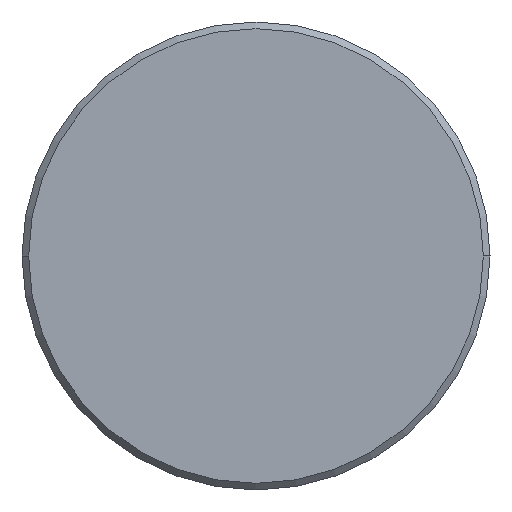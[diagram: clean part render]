
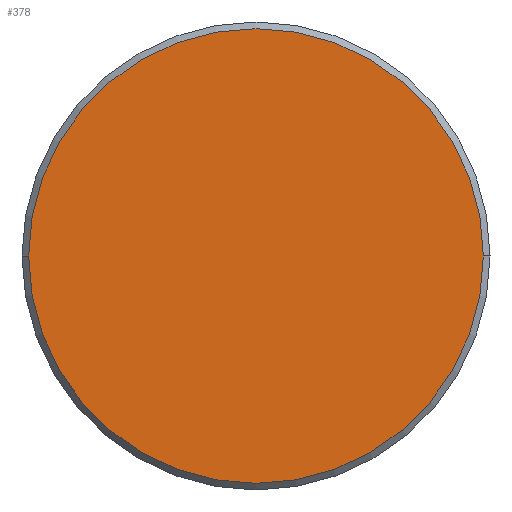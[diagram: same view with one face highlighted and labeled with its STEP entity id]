
A CAD part, left-side view. The second image highlights one B-rep face of the part: STEP entity #378.
In plain terms, the highlighted planar face has unit normal (-1, 0, 0).
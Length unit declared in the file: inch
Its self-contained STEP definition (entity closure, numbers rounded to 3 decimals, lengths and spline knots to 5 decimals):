
#25 = CARTESIAN_POINT ( 'NONE',  ( 0., 0., 0. ) ) ;
#28 = DIRECTION ( 'NONE',  ( 0., -1., 0. ) ) ;
#45 = CIRCLE ( 'NONE', #334, 0.13662 ) ;
#63 = CARTESIAN_POINT ( 'NONE',  ( 0., 0., 0. ) ) ;
#87 = DIRECTION ( 'NONE',  ( -1., 0., 0. ) ) ;
#120 = VERTEX_POINT ( 'NONE', #317 ) ;
#146 = EDGE_CURVE ( 'NONE', #120, #207, #45, .T. ) ;
#149 = DIRECTION ( 'NONE',  ( 0., -1., 0. ) ) ;
#173 = DIRECTION ( 'NONE',  ( -1., 0., 0. ) ) ;
#205 = PLANE ( 'NONE',  #301 ) ;
#206 = ORIENTED_EDGE ( 'NONE', *, *, #366, .T. ) ;
#207 = VERTEX_POINT ( 'NONE', #236 ) ;
#220 = ORIENTED_EDGE ( 'NONE', *, *, #146, .T. ) ;
#226 = DIRECTION ( 'NONE',  ( -1., 0., 0. ) ) ;
#236 = CARTESIAN_POINT ( 'NONE',  ( 0., 0.13662, 0. ) ) ;
#256 = EDGE_LOOP ( 'NONE', ( #206, #220 ) ) ;
#266 = CARTESIAN_POINT ( 'NONE',  ( 0., 0., 0. ) ) ;
#293 = DIRECTION ( 'NONE',  ( 0., -1., 0. ) ) ;
#301 = AXIS2_PLACEMENT_3D ( 'NONE', #266, #87, #293 ) ;
#317 = CARTESIAN_POINT ( 'NONE',  ( 0., -0.13662, 0. ) ) ;
#318 = CIRCLE ( 'NONE', #365, 0.13662 ) ;
#334 = AXIS2_PLACEMENT_3D ( 'NONE', #25, #226, #149 ) ;
#349 = FACE_OUTER_BOUND ( 'NONE', #256, .T. ) ;
#365 = AXIS2_PLACEMENT_3D ( 'NONE', #63, #173, #28 ) ;
#366 = EDGE_CURVE ( 'NONE', #207, #120, #318, .T. ) ;
#378 = ADVANCED_FACE ( 'NONE', ( #349 ), #205, .T. ) ;
